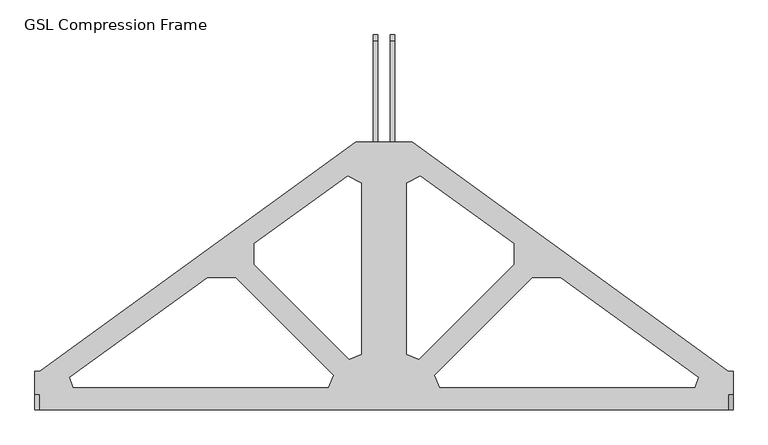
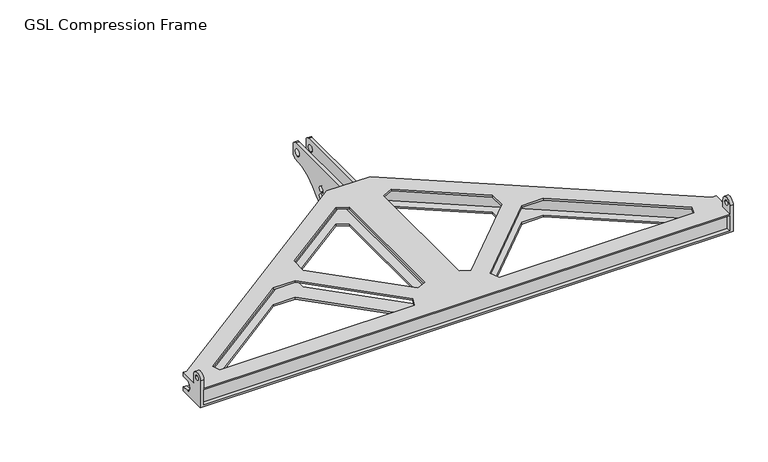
"""IFC4 building model written with IfcOpenShell, lengths in millimetres: proxy geometry, d&b SL-Series GSL Compression Frame : GSL Compression Frame."""

from ifc_helpers import new_model, si_unit, point, frame, frame_2d, origin, place, context, project, spatial, polyline, circle_curve, trimmed, segment, composite_curve, outline, extrude, source, transform, mapped, element, save
from ifc_brep_helpers import plane_surface, cylinder_surface, revolved_surface, advanced_brep


def gsl_compression_frame_d4c21625(model_context):
    return source(origin(), model_context, "Body", "SolidModel", [
        advanced_brep(
        [(-607.6771356, 98.9954278, -13.0), (-50.2424578, 503.9954278, -13.0), (50.2424578, 503.9954278, -13.0), (607.6771356, 98.9954278, -13.0), (608.3, 98.9954278, -13.0), (608.3, 30.5954278, -13.0), (-608.3, 30.5954278, -13.0), (-608.3, 98.9954278, -13.0), (261.8640023, 264.1751589, -13.0), (89.4974747, 91.8086313, -13.0), (98.2842712, 70.5954278, -13.0), (548.7143175, 70.5954278, -13.0), (554.4438076, 88.2289854, -13.0), (312.2746754, 264.1751589, -13.0), (61.2132034, 120.0929025, -13.0), (229.0999426, 287.9796417, -13.0), (229.0999426, 324.6051396, -13.0), (64.2705098, 444.3607324, -13.0), (40.0, 431.9942899, -13.0), (40.0, 128.8796991, -13.0), (-261.8640023, 264.1751589, -13.0), (-312.2746754, 264.1751589, -13.0), (-554.4438076, 88.2289854, -13.0), (-548.7143175, 70.5954278, -13.0), (-98.2842712, 70.5954278, -13.0), (-89.4974747, 91.8086313, -13.0), (-61.2132034, 120.0929025, -13.0), (-40.0, 128.8796991, -13.0), (-40.0, 431.9942899, -13.0), (-64.2705098, 444.3607324, -13.0), (-229.0999426, 324.6051396, -13.0), (-229.0999426, 287.9796417, -13.0), (607.6771356, 98.9954278, -9.0), (50.2424578, 503.9954278, -9.0), (-50.2424578, 503.9954278, -9.0), (-607.6771356, 98.9954278, -9.0), (-616.3, 98.9954278, -9.0), (-616.3, 57.3954278, -9.0), (-608.3, 57.3954278, -9.0), (-608.3, 30.5954278, -9.0), (608.3, 30.5954278, -9.0), (608.3, 57.3954278, -9.0), (616.3, 57.3954278, -9.0), (616.3, 98.9954278, -9.0), (261.8640023, 264.1751589, -9.0), (312.2746754, 264.1751589, -9.0), (554.4438076, 88.2289854, -9.0), (548.7143175, 70.5954278, -9.0), (98.2842712, 70.5954278, -9.0), (89.4974747, 91.8086313, -9.0), (61.2132034, 120.0929025, -9.0), (40.0, 128.8796991, -9.0), (40.0, 431.9942899, -9.0), (64.2705098, 444.3607324, -9.0), (229.0999426, 324.6051396, -9.0), (229.0999426, 287.9796417, -9.0), (-261.8640023, 264.1751589, -9.0), (-89.4974747, 91.8086313, -9.0), (-98.2842712, 70.5954278, -9.0), (-548.7143175, 70.5954278, -9.0), (-554.4438076, 88.2289854, -9.0), (-312.2746754, 264.1751589, -9.0), (-61.2132034, 120.0929025, -9.0), (-229.0999426, 287.9796417, -9.0), (-229.0999426, 324.6051396, -9.0), (-64.2705098, 444.3607324, -9.0), (-40.0, 431.9942899, -9.0), (-40.0, 128.8796991, -9.0), (-608.3, 98.9954278, -19.0), (-616.3, 98.9954278, -19.0), (-616.3, 83.9954278, -19.0), (-616.3, 83.9954278, -44.0), (-616.3, 98.9954278, -44.0), (-616.3, 98.9954278, -54.0), (-616.3, 30.5954278, -54.0), (-616.3, 30.5954278, 11.0), (-616.3, 57.3954278, 11.0), (-616.3, 49.3550955, 11.0), (-616.3, 38.6357602, 11.0), (-608.3, 30.5954278, 11.0), (616.3, 30.5954278, -54.0), (616.3, 30.5954278, 11.0), (608.3, 30.5954278, 11.0), (608.3, 30.5954278, -50.0), (-608.3, 30.5954278, -50.0), (616.3, 83.9954278, -19.0), (616.3, 98.9954278, -19.0), (616.3, 57.3954278, 11.0), (616.3, 98.9954278, -54.0), (616.3, 98.9954278, -44.0), (616.3, 83.9954278, -44.0), (616.3, 49.3550955, 11.0), (616.3, 38.6357602, 11.0), (608.3, 98.9954278, -19.0), (-608.3, 83.9954278, -19.0), (-608.3, 98.9954278, -50.0), (-608.3, 98.9954278, -44.0), (-608.3, 83.9954278, -44.0), (-608.3, 57.3954278, 11.0), (-608.3, 49.3550955, 11.0), (-608.3, 38.6357602, 11.0), (-607.6771356, 98.9954278, -54.0), (-50.2424578, 503.9954278, -54.0), (50.2424578, 503.9954278, -54.0), (607.6771356, 98.9954278, -54.0), (261.8640023, 264.1751589, -54.0), (89.4974747, 91.8086313, -54.0), (98.2842712, 70.5954278, -54.0), (548.7143175, 70.5954278, -54.0), (554.4438076, 88.2289854, -54.0), (312.2746754, 264.1751589, -54.0), (61.2132034, 120.0929025, -54.0), (229.0999426, 287.9796417, -54.0), (229.0999426, 324.6051396, -54.0), (64.2705098, 444.3607324, -54.0), (40.0, 431.9942899, -54.0), (40.0, 128.8796991, -54.0), (-261.8640023, 264.1751589, -54.0), (-312.2746754, 264.1751589, -54.0), (-554.4438076, 88.2289854, -54.0), (-548.7143175, 70.5954278, -54.0), (-98.2842712, 70.5954278, -54.0), (-89.4974747, 91.8086313, -54.0), (-61.2132034, 120.0929025, -54.0), (-40.0, 128.8796991, -54.0), (-40.0, 431.9942899, -54.0), (-64.2705098, 444.3607324, -54.0), (-229.0999426, 324.6051396, -54.0), (-229.0999426, 287.9796417, -54.0), (-607.6771356, 98.9954278, -50.0), (608.3, 83.9954278, -19.0), (608.3, 83.9954278, -44.0), (608.3, 98.9954278, -44.0), (608.3, 98.9954278, -50.0), (608.3, 57.3954278, 11.0), (608.3, 49.3550955, 11.0), (608.3, 38.6357602, 11.0), (607.6771356, 98.9954278, -50.0), (50.2424578, 503.9954278, -50.0), (-50.2424578, 503.9954278, -50.0), (261.8640023, 264.1751589, -50.0), (312.2746754, 264.1751589, -50.0), (554.4438076, 88.2289854, -50.0), (548.7143175, 70.5954278, -50.0), (98.2842712, 70.5954278, -50.0), (89.4974747, 91.8086313, -50.0), (61.2132034, 120.0929025, -50.0), (40.0, 128.8796991, -50.0), (40.0, 431.9942899, -50.0), (64.2705098, 444.3607324, -50.0), (229.0999426, 324.6051396, -50.0), (229.0999426, 287.9796417, -50.0), (-261.8640023, 264.1751589, -50.0), (-89.4974747, 91.8086313, -50.0), (-98.2842712, 70.5954278, -50.0), (-548.7143175, 70.5954278, -50.0), (-554.4438076, 88.2289854, -50.0), (-312.2746754, 264.1751589, -50.0), (-61.2132034, 120.0929025, -50.0), (-229.0999426, 287.9796417, -50.0), (-229.0999426, 324.6051396, -50.0), (-64.2705098, 444.3607324, -50.0), (-40.0, 431.9942899, -50.0), (-40.0, 128.8796991, -50.0)],
        [
            (0, 1),
            (1, 2),
            (2, 3),
            (3, 4),
            (4, 5),
            (5, 6),
            (6, 7),
            (7, 0),
            (8, 9),
            (9, 10),
            (10, 11),
            (11, 12),
            (12, 13),
            (13, 8),
            (14, 15),
            (15, 16),
            (16, 17),
            (17, 18),
            (18, 19),
            (19, 14),
            (20, 21),
            (21, 22),
            (22, 23),
            (23, 24),
            (24, 25),
            (25, 20),
            (26, 27),
            (27, 28),
            (28, 29),
            (29, 30),
            (30, 31),
            (31, 26),
            (32, 33),
            (33, 34),
            (34, 35),
            (35, 36),
            (36, 37),
            (37, 38),
            (38, 39),
            (39, 40),
            (40, 41),
            (41, 42),
            (42, 43),
            (43, 32),
            (44, 45),
            (45, 46),
            (46, 47),
            (47, 48),
            (48, 49),
            (49, 44),
            (50, 51),
            (51, 52),
            (52, 53),
            (53, 54),
            (54, 55),
            (55, 50),
            (56, 57),
            (57, 58),
            (58, 59),
            (59, 60),
            (60, 61),
            (61, 56),
            (62, 63),
            (63, 64),
            (64, 65),
            (65, 66),
            (66, 67),
            (67, 62),
            (2, 33),
            (32, 3),
            (1, 34),
            (0, 35),
            (7, 68),
            (68, 69),
            (69, 36),
            (70, 71, circle_curve(frame((-616.3, 83.9954278, -31.5), z_axis=(1.0, 0.0, 0.0), x_axis=(0.0, -1.0, 0.0)), 12.5)),
            (71, 72),
            (72, 73),
            (73, 74),
            (74, 75),
            (75, 76, circle_curve(frame((-616.3, 43.9954278, 11.0), z_axis=(-1.0, 0.0, 0.0), x_axis=(0.0, -1.0, 0.0)), 13.4)),
            (76, 37),
            (69, 70),
            (77, 78, circle_curve(frame((-616.3, 43.9954278, 11.0), z_axis=(1.0, 0.0, 0.0), x_axis=(0.0, -1.0, 0.0)), 5.3596677)),
            (78, 77, circle_curve(frame((-616.3, 43.9954278, 11.0), z_axis=(1.0, 0.0, 0.0), x_axis=(0.0, -1.0, 0.0)), 5.3596677)),
            (39, 79),
            (79, 75),
            (74, 80),
            (80, 81),
            (81, 82),
            (82, 40),
            (5, 83),
            (83, 84),
            (84, 6),
            (85, 86),
            (86, 43),
            (42, 87),
            (87, 81, circle_curve(frame((616.3, 43.9954278, 11.0), z_axis=(1.0, 0.0, 0.0), x_axis=(0.0, -1.0, 0.0)), 13.4)),
            (80, 88),
            (88, 89),
            (89, 90),
            (90, 85, circle_curve(frame((616.3, 83.9954278, -31.5), z_axis=(-1.0, 0.0, 0.0), x_axis=(0.0, -1.0, 0.0)), 12.5)),
            (91, 92, circle_curve(frame((616.3, 43.9954278, 11.0), z_axis=(-1.0, 0.0, 0.0), x_axis=(0.0, -1.0, 0.0)), 5.3596677)),
            (92, 91, circle_curve(frame((616.3, 43.9954278, 11.0), z_axis=(-1.0, 0.0, 0.0), x_axis=(0.0, -1.0, 0.0)), 5.3596677)),
            (86, 93),
            (93, 4),
            (13, 45),
            (44, 8),
            (12, 46),
            (11, 47),
            (10, 48),
            (9, 49),
            (19, 51),
            (50, 14),
            (18, 52),
            (17, 53),
            (16, 54),
            (15, 55),
            (25, 57),
            (56, 20),
            (24, 58),
            (23, 59),
            (22, 60),
            (21, 61),
            (31, 63),
            (62, 26),
            (30, 64),
            (29, 65),
            (28, 66),
            (27, 67),
            (94, 68),
            (84, 95),
            (95, 96),
            (96, 97),
            (97, 94, circle_curve(frame((-608.3, 83.9954278, -31.5), z_axis=(-1.0, 0.0, 0.0), x_axis=(0.0, -1.0, 0.0)), 12.5)),
            (98, 79, circle_curve(frame((-608.3, 43.9954278, 11.0), z_axis=(1.0, 0.0, 0.0), x_axis=(0.0, -1.0, 0.0)), 13.4)),
            (38, 98),
            (99, 100, circle_curve(frame((-608.3, 43.9954278, 11.0), z_axis=(-1.0, 0.0, 0.0), x_axis=(0.0, -1.0, 0.0)), 5.3596677)),
            (100, 99, circle_curve(frame((-608.3, 43.9954278, 11.0), z_axis=(-1.0, 0.0, 0.0), x_axis=(0.0, -1.0, 0.0)), 5.3596677)),
            (73, 101),
            (101, 102),
            (102, 103),
            (103, 104),
            (104, 88),
            (105, 106),
            (106, 107),
            (107, 108),
            (108, 109),
            (109, 110),
            (110, 105),
            (111, 112),
            (112, 113),
            (113, 114),
            (114, 115),
            (115, 116),
            (116, 111),
            (117, 118),
            (118, 119),
            (119, 120),
            (120, 121),
            (121, 122),
            (122, 117),
            (123, 124),
            (124, 125),
            (125, 126),
            (126, 127),
            (127, 128),
            (128, 123),
            (72, 96),
            (95, 129),
            (129, 101),
            (71, 97),
            (70, 94),
            (98, 76),
            (99, 77),
            (78, 100),
            (130, 131, circle_curve(frame((608.3, 83.9954278, -31.5), z_axis=(1.0, 0.0, 0.0), x_axis=(0.0, -1.0, 0.0)), 12.5)),
            (131, 132),
            (132, 133),
            (133, 83),
            (93, 130),
            (134, 41),
            (82, 134, circle_curve(frame((608.3, 43.9954278, 11.0), z_axis=(-1.0, 0.0, 0.0), x_axis=(0.0, -1.0, 0.0)), 13.4)),
            (135, 136, circle_curve(frame((608.3, 43.9954278, 11.0), z_axis=(1.0, 0.0, 0.0), x_axis=(0.0, -1.0, 0.0)), 5.3596677)),
            (136, 135, circle_curve(frame((608.3, 43.9954278, 11.0), z_axis=(1.0, 0.0, 0.0), x_axis=(0.0, -1.0, 0.0)), 5.3596677)),
            (104, 137),
            (137, 133),
            (132, 89),
            (131, 90),
            (130, 85),
            (87, 134),
            (136, 92),
            (91, 135),
            (137, 138),
            (138, 139),
            (139, 129),
            (140, 141),
            (141, 142),
            (142, 143),
            (143, 144),
            (144, 145),
            (145, 140),
            (146, 147),
            (147, 148),
            (148, 149),
            (149, 150),
            (150, 151),
            (151, 146),
            (152, 153),
            (153, 154),
            (154, 155),
            (155, 156),
            (156, 157),
            (157, 152),
            (158, 159),
            (159, 160),
            (160, 161),
            (161, 162),
            (162, 163),
            (163, 158),
            (103, 138),
            (102, 139),
            (110, 141),
            (140, 105),
            (109, 142),
            (108, 143),
            (107, 144),
            (106, 145),
            (116, 147),
            (146, 111),
            (115, 148),
            (114, 149),
            (113, 150),
            (112, 151),
            (122, 153),
            (152, 117),
            (121, 154),
            (120, 155),
            (119, 156),
            (118, 157),
            (128, 159),
            (158, 123),
            (127, 160),
            (126, 161),
            (125, 162),
            (124, 163),
        ],
        [
            plane_surface(frame((50.2424578, 503.9954278, -13.0), z_axis=(0.0, 0.0, -1.0), x_axis=(0.8090169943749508, -0.5877852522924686, 0.0))),
            plane_surface(frame((50.2424578, 503.9954278, -9.0), z_axis=(0.0, 0.0, 1.0), x_axis=(-0.8090169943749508, 0.5877852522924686, 0.0))),
            plane_surface(frame((607.6771356, 98.9954278, -9.0), z_axis=(0.5877852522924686, 0.8090169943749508, 0.0), x_axis=(0.0, 0.0, -1.0))),
            plane_surface(frame((50.2424578, 503.9954278, -9.0), z_axis=(0.0, 1.0, 0.0), x_axis=(0.0, 0.0, -1.0))),
            plane_surface(frame((-50.2424578, 503.9954278, -9.0), z_axis=(-0.5877852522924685, 0.8090169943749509, 0.0), x_axis=(0.0, 0.0, -1.0))),
            plane_surface(frame((-607.6771356, 98.9954278, -9.0), z_axis=(0.0, 1.0, 0.0), x_axis=(0.0, 0.0, -1.0))),
            plane_surface(frame((-616.3, 98.9954278, -9.0), z_axis=(-1.0, 0.0, 0.0), x_axis=(0.0, 0.0, -1.0))),
            plane_surface(frame((-616.3, 30.5954278, -9.0), z_axis=(0.0, -1.0, 0.0), x_axis=(0.0, 0.0, -1.0))),
            plane_surface(frame((616.3, 30.5954278, -9.0), z_axis=(1.0, 0.0, 0.0), x_axis=(0.0, 0.0, -1.0))),
            plane_surface(frame((616.3, 98.9954278, -9.0), z_axis=(0.0, 1.0, 0.0), x_axis=(0.0, 0.0, -1.0))),
            plane_surface(frame((261.8640023, 264.1751589, -9.0), z_axis=(0.0, -1.0, 0.0), x_axis=(0.0, 0.0, -1.0))),
            plane_surface(frame((312.2746754, 264.1751589, -9.0), z_axis=(-0.5877852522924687, -0.8090169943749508, 0.0), x_axis=(0.0, 0.0, -1.0))),
            plane_surface(frame((554.4438076, 88.2289854, -9.0), z_axis=(-0.9510565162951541, 0.30901699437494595, 0.0), x_axis=(0.0, 0.0, -1.0))),
            plane_surface(frame((548.7143175, 70.5954278, -9.0), z_axis=(0.0, 1.0, 0.0), x_axis=(0.0, 0.0, -1.0))),
            plane_surface(frame((98.2842712, 70.5954278, -9.0), z_axis=(0.923879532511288, 0.382683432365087, 0.0), x_axis=(0.0, 0.0, -1.0))),
            plane_surface(frame((89.4974747, 91.8086313, -9.0), z_axis=(0.7071067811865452, -0.7071067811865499, 0.0), x_axis=(0.0, 0.0, -1.0))),
            plane_surface(frame((61.2132034, 120.0929025, -9.0), z_axis=(0.3826834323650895, 0.923879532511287, 0.0), x_axis=(0.0, 0.0, -1.0))),
            plane_surface(frame((40.0, 128.8796991, -9.0), z_axis=(1.0, 0.0, 0.0), x_axis=(0.0, 0.0, -1.0))),
            plane_surface(frame((40.0, 431.9942899, -9.0), z_axis=(0.4539904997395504, -0.8910065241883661, 0.0), x_axis=(0.0, 0.0, -1.0))),
            plane_surface(frame((64.2705098, 444.3607324, -9.0), z_axis=(-0.587785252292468, -0.8090169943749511, 0.0), x_axis=(0.0, 0.0, -1.0))),
            plane_surface(frame((229.0999426, 324.6051396, -9.0), z_axis=(-1.0, 0.0, 0.0), x_axis=(0.0, 0.0, -1.0))),
            plane_surface(frame((229.0999426, 287.9796417, -9.0), z_axis=(-0.7071067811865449, 0.7071067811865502, 0.0), x_axis=(0.0, 0.0, -1.0))),
            plane_surface(frame((-261.8640023, 264.1751589, -9.0), z_axis=(-0.7071067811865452, -0.7071067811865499, 0.0), x_axis=(0.0, 0.0, -1.0))),
            plane_surface(frame((-89.4974747, 91.8086313, -9.0), z_axis=(-0.923879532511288, 0.382683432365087, 0.0), x_axis=(0.0, 0.0, -1.0))),
            plane_surface(frame((-98.2842712, 70.5954278, -9.0), z_axis=(0.0, 1.0, 0.0), x_axis=(0.0, 0.0, -1.0))),
            plane_surface(frame((-548.7143175, 70.5954278, -9.0), z_axis=(0.9510565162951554, 0.3090169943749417, 0.0), x_axis=(0.0, 0.0, -1.0))),
            plane_surface(frame((-554.4438076, 88.2289854, -9.0), z_axis=(0.5877852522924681, -0.8090169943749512, 0.0), x_axis=(0.0, 0.0, -1.0))),
            plane_surface(frame((-312.2746754, 264.1751589, -9.0), z_axis=(0.0, -1.0, 0.0), x_axis=(0.0, 0.0, -1.0))),
            plane_surface(frame((-61.2132034, 120.0929025, -9.0), z_axis=(0.7071067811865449, 0.7071067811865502, 0.0), x_axis=(0.0, 0.0, -1.0))),
            plane_surface(frame((-229.0999426, 287.9796417, -9.0), z_axis=(1.0, 0.0, 0.0), x_axis=(0.0, 0.0, -1.0))),
            plane_surface(frame((-229.0999426, 324.6051396, -9.0), z_axis=(0.587785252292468, -0.8090169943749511, 0.0), x_axis=(0.0, 0.0, -1.0))),
            plane_surface(frame((-64.2705098, 444.3607324, -9.0), z_axis=(-0.4539904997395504, -0.8910065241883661, 0.0), x_axis=(0.0, 0.0, -1.0))),
            plane_surface(frame((-40.0, 431.9942899, -9.0), z_axis=(-1.0, 0.0, 0.0), x_axis=(0.0, 0.0, -1.0))),
            plane_surface(frame((-40.0, 128.8796991, -9.0), z_axis=(-0.3826834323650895, 0.923879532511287, 0.0), x_axis=(0.0, 0.0, -1.0))),
            plane_surface(frame((-608.3, 96.9954278, -19.0), z_axis=(1.0, 0.0, 0.0), x_axis=(0.0, 1.0, 0.0))),
            plane_surface(frame((-608.3, 32.6068307, -54.0), z_axis=(0.0, 0.0, -1.0), x_axis=(-1.0, 0.0, 0.0))),
            plane_surface(frame((-608.3, 98.9954278, -54.0), z_axis=(0.0, 1.0, 0.0), x_axis=(-1.0, 0.0, 0.0))),
            plane_surface(frame((-608.3, 98.9954278, -44.0), z_axis=(0.0, 0.0, 1.0), x_axis=(-1.0, 0.0, 0.0))),
            revolved_surface(polyline([(-616.3, 71.4954278, -31.5), (-608.3, 71.4954278, -31.5)]), (-616.3, 83.9954278, -31.5), (-1.0, 0.0, 0.0)),
            plane_surface(frame((-608.3, 83.9954278, -19.0), z_axis=(0.0, 0.0, -1.0), x_axis=(-1.0, 0.0, 0.0))),
            cylinder_surface(frame((-606.25, 43.9954278, 11.0), z_axis=(1.0, 0.0, 0.0), x_axis=(0.0, -1.0, 0.0)), 13.4),
            plane_surface(frame((-608.3, 57.3954278, -9.0), z_axis=(0.0, 1.0, 0.0), x_axis=(-1.0, 0.0, 0.0))),
            revolved_surface(polyline([(-616.3, 38.6357601, 11.0), (-608.3, 38.6357601, 11.0)]), (-606.25, 43.9954278, 11.0), (-1.0, 0.0, 0.0)),
            plane_surface(frame((608.3, 71.4954278, -31.5), z_axis=(-1.0, 0.0, 0.0), x_axis=(0.0, 0.0, -1.0))),
            plane_surface(frame((608.3, 98.9954278, -44.0), z_axis=(0.0, 1.0, 0.0), x_axis=(1.0, 0.0, 0.0))),
            plane_surface(frame((608.3, 83.9954278, -44.0), z_axis=(0.0, 0.0, 1.0), x_axis=(1.0, 0.0, 0.0))),
            revolved_surface(polyline([(616.3, 71.4954278, -31.5), (608.3, 71.4954278, -31.5)]), (616.3, 83.9954278, -31.5), (1.0, 0.0, 0.0)),
            plane_surface(frame((608.3, 98.9954278, -19.0), z_axis=(0.0, 0.0, -1.0), x_axis=(1.0, 0.0, 0.0))),
            cylinder_surface(frame((606.25, 43.9954278, 11.0), z_axis=(-1.0, 0.0, 0.0), x_axis=(0.0, -1.0, 0.0)), 13.4),
            plane_surface(frame((608.3, 57.3954278, 11.0), z_axis=(0.0, 1.0, 0.0), x_axis=(1.0, 0.0, 0.0))),
            revolved_surface(polyline([(616.3, 38.6357601, 11.0), (608.3, 38.6357601, 11.0)]), (606.25, 43.9954278, 11.0), (1.0, 0.0, 0.0)),
            plane_surface(frame((50.2424578, 503.9954278, -50.0), z_axis=(0.0, 0.0, 1.0), x_axis=(-0.8090169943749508, 0.5877852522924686, 0.0))),
            plane_surface(frame((607.6771356, 98.9954278, -50.0), z_axis=(0.5877852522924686, 0.8090169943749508, 0.0), x_axis=(0.0, 0.0, -1.0))),
            plane_surface(frame((50.2424578, 503.9954278, -50.0), z_axis=(0.0, 1.0, 0.0), x_axis=(0.0, 0.0, -1.0))),
            plane_surface(frame((-50.2424578, 503.9954278, -50.0), z_axis=(-0.5877852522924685, 0.8090169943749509, 0.0), x_axis=(0.0, 0.0, -1.0))),
            plane_surface(frame((261.8640023, 264.1751589, -50.0), z_axis=(0.0, -1.0, 0.0), x_axis=(0.0, 0.0, -1.0))),
            plane_surface(frame((312.2746754, 264.1751589, -50.0), z_axis=(-0.5877852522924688, -0.8090169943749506, 0.0), x_axis=(0.0, 0.0, -1.0))),
            plane_surface(frame((554.4438076, 88.2289854, -50.0), z_axis=(-0.9510565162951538, 0.30901699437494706, 0.0), x_axis=(0.0, 0.0, -1.0))),
            plane_surface(frame((548.7143175, 70.5954278, -50.0), z_axis=(0.0, 1.0, 0.0), x_axis=(0.0, 0.0, -1.0))),
            plane_surface(frame((98.2842712, 70.5954278, -50.0), z_axis=(0.923879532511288, 0.382683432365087, 0.0), x_axis=(0.0, 0.0, -1.0))),
            plane_surface(frame((89.4974747, 91.8086313, -50.0), z_axis=(0.7071067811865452, -0.7071067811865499, 0.0), x_axis=(0.0, 0.0, -1.0))),
            plane_surface(frame((61.2132034, 120.0929025, -50.0), z_axis=(0.3826834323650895, 0.923879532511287, 0.0), x_axis=(0.0, 0.0, -1.0))),
            plane_surface(frame((40.0, 128.8796991, -50.0), z_axis=(1.0, 0.0, 0.0), x_axis=(0.0, 0.0, -1.0))),
            plane_surface(frame((40.0, 431.9942899, -50.0), z_axis=(0.4539904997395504, -0.8910065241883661, 0.0), x_axis=(0.0, 0.0, -1.0))),
            plane_surface(frame((64.2705098, 444.3607324, -50.0), z_axis=(-0.587785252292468, -0.8090169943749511, 0.0), x_axis=(0.0, 0.0, -1.0))),
            plane_surface(frame((229.0999426, 324.6051396, -50.0), z_axis=(-1.0, 0.0, 0.0), x_axis=(0.0, 0.0, -1.0))),
            plane_surface(frame((229.0999426, 287.9796417, -50.0), z_axis=(-0.7071067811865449, 0.7071067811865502, 0.0), x_axis=(0.0, 0.0, -1.0))),
            plane_surface(frame((-261.8640023, 264.1751589, -50.0), z_axis=(-0.7071067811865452, -0.7071067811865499, 0.0), x_axis=(0.0, 0.0, -1.0))),
            plane_surface(frame((-89.4974747, 91.8086313, -50.0), z_axis=(-0.923879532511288, 0.382683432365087, 0.0), x_axis=(0.0, 0.0, -1.0))),
            plane_surface(frame((-98.2842712, 70.5954278, -50.0), z_axis=(0.0, 1.0, 0.0), x_axis=(0.0, 0.0, -1.0))),
            plane_surface(frame((-548.7143175, 70.5954278, -50.0), z_axis=(0.9510565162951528, 0.3090169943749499, 0.0), x_axis=(0.0, 0.0, -1.0))),
            plane_surface(frame((-554.4438076, 88.2289854, -50.0), z_axis=(0.587785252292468, -0.8090169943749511, 0.0), x_axis=(0.0, 0.0, -1.0))),
            plane_surface(frame((-312.2746754, 264.1751589, -50.0), z_axis=(0.0, -1.0, 0.0), x_axis=(0.0, 0.0, -1.0))),
            plane_surface(frame((-61.2132034, 120.0929025, -50.0), z_axis=(0.7071067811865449, 0.7071067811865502, 0.0), x_axis=(0.0, 0.0, -1.0))),
            plane_surface(frame((-229.0999426, 287.9796417, -50.0), z_axis=(1.0, 0.0, 0.0), x_axis=(0.0, 0.0, -1.0))),
            plane_surface(frame((-229.0999426, 324.6051396, -50.0), z_axis=(0.587785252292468, -0.8090169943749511, 0.0), x_axis=(0.0, 0.0, -1.0))),
            plane_surface(frame((-64.2705098, 444.3607324, -50.0), z_axis=(-0.4539904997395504, -0.8910065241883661, 0.0), x_axis=(0.0, 0.0, -1.0))),
            plane_surface(frame((-40.0, 431.9942899, -50.0), z_axis=(-1.0, 0.0, 0.0), x_axis=(0.0, 0.0, -1.0))),
            plane_surface(frame((-40.0, 128.8796991, -50.0), z_axis=(-0.3826834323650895, 0.923879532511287, 0.0), x_axis=(0.0, 0.0, -1.0))),
        ],
        [
            (0, [[1, 2, 3, 4, 5, 6, 7, 8], [9, 10, 11, 12, 13, 14], [15, 16, 17, 18, 19, 20], [21, 22, 23, 24, 25, 26], [27, 28, 29, 30, 31, 32]]),
            (1, [[33, 34, 35, 36, 37, 38, 39, 40, 41, 42, 43, 44], [45, 46, 47, 48, 49, 50], [51, 52, 53, 54, 55, 56], [57, 58, 59, 60, 61, 62], [63, 64, 65, 66, 67, 68]]),
            (2, [[-3, 69, -33, 70]]),
            (3, [[-2, 71, -34, -69]]),
            (4, [[-1, 72, -35, -71]]),
            (5, [[-36, -72, -8, 73, 74, 75]]),
            (6, [[76, 77, 78, 79, 80, 81, 82, -37, -75, 83], [84, 85]]),
            (7, [[86, 87, -80, 88, 89, 90, 91, -40], [92, 93, 94, -6]]),
            (8, [[95, 96, -43, 97, 98, -89, 99, 100, 101, 102], [103, 104]]),
            (9, [[-44, -96, 105, 106, -4, -70]]),
            (10, [[-14, 107, -45, 108]]),
            (11, [[-13, 109, -46, -107]]),
            (12, [[-12, 110, -47, -109]]),
            (13, [[-11, 111, -48, -110]]),
            (14, [[-10, 112, -49, -111]]),
            (15, [[-9, -108, -50, -112]]),
            (16, [[-20, 113, -51, 114]]),
            (17, [[-19, 115, -52, -113]]),
            (18, [[-18, 116, -53, -115]]),
            (19, [[-17, 117, -54, -116]]),
            (20, [[-16, 118, -55, -117]]),
            (21, [[-15, -114, -56, -118]]),
            (22, [[-26, 119, -57, 120]]),
            (23, [[-25, 121, -58, -119]]),
            (24, [[-24, 122, -59, -121]]),
            (25, [[-23, 123, -60, -122]]),
            (26, [[-22, 124, -61, -123]]),
            (27, [[-21, -120, -62, -124]]),
            (28, [[-32, 125, -63, 126]]),
            (29, [[-31, 127, -64, -125]]),
            (30, [[-30, 128, -65, -127]]),
            (31, [[-29, 129, -66, -128]]),
            (32, [[-28, 130, -67, -129]]),
            (33, [[-27, -126, -68, -130]]),
            (34, [[131, -73, -7, -94, 132, 133, 134, 135]]),
            (34, [[136, -86, -39, 137], [138, 139]]),
            (35, [[-79, 140, 141, 142, 143, 144, -99, -88], [145, 146, 147, 148, 149, 150], [151, 152, 153, 154, 155, 156], [157, 158, 159, 160, 161, 162], [163, 164, 165, 166, 167, 168]]),
            (36, [[-140, -78, 169, -133, 170, 171]]),
            (37, [[-134, -169, -77, 172]]),
            (38, [[-135, -172, -76, 173]]),
            (39, [[-131, -173, -83, -74]]),
            (40, [[-136, 174, -81, -87]]),
            (41, [[-137, -38, -82, -174]]),
            (42, [[-138, 175, -85, 176]]),
            (42, [[-139, -176, -84, -175]]),
            (43, [[177, 178, 179, 180, -92, -5, -106, 181]]),
            (43, [[182, -41, -91, 183], [184, 185]]),
            (44, [[-100, -144, 186, 187, -179, 188]]),
            (45, [[-178, 189, -101, -188]]),
            (46, [[-177, 190, -102, -189]]),
            (47, [[-181, -105, -95, -190]]),
            (48, [[-183, -90, -98, 191]]),
            (49, [[-182, -191, -97, -42]]),
            (50, [[-185, 192, -103, 193]]),
            (50, [[-184, -193, -104, -192]]),
            (51, [[194, 195, 196, -170, -132, -93, -180, -187], [197, 198, 199, 200, 201, 202], [203, 204, 205, 206, 207, 208], [209, 210, 211, 212, 213, 214], [215, 216, 217, 218, 219, 220]]),
            (52, [[-143, 221, -194, -186]]),
            (53, [[-142, 222, -195, -221]]),
            (54, [[-141, -171, -196, -222]]),
            (55, [[-150, 223, -197, 224]]),
            (56, [[-149, 225, -198, -223]]),
            (57, [[-148, 226, -199, -225]]),
            (58, [[-147, 227, -200, -226]]),
            (59, [[-146, 228, -201, -227]]),
            (60, [[-145, -224, -202, -228]]),
            (61, [[-156, 229, -203, 230]]),
            (62, [[-155, 231, -204, -229]]),
            (63, [[-154, 232, -205, -231]]),
            (64, [[-153, 233, -206, -232]]),
            (65, [[-152, 234, -207, -233]]),
            (66, [[-151, -230, -208, -234]]),
            (67, [[-162, 235, -209, 236]]),
            (68, [[-161, 237, -210, -235]]),
            (69, [[-160, 238, -211, -237]]),
            (70, [[-159, 239, -212, -238]]),
            (71, [[-158, 240, -213, -239]]),
            (72, [[-157, -236, -214, -240]]),
            (73, [[-168, 241, -215, 242]]),
            (74, [[-167, 243, -216, -241]]),
            (75, [[-166, 244, -217, -243]]),
            (76, [[-165, 245, -218, -244]]),
            (77, [[-164, 246, -219, -245]]),
            (78, [[-163, -242, -220, -246]]),
        ],
    ),
        extrude(outline(composite_curve([segment(polyline([(504.4954278, -11.0), (683.4954278, -11.0)]), True, "CONTINUOUS"), segment(trimmed(circle_curve(frame_2d((683.4954278, -21.0)), 10.0), [point((683.4954278, -11.0))], [point((693.4954278, -21.0))], False, "CARTESIAN"), True, "CONTINUOUS"), segment(polyline([(693.4954278, -21.0), (693.4954278, -40.2030025)]), True, "CONTINUOUS"), segment(trimmed(circle_curve(frame_2d((683.4954278, -40.2030025)), 10.0), [point((693.4954278, -40.2030025))], [point((684.0436234, -50.1879653))], False, "CARTESIAN"), True, "CONTINUOUS"), segment(trimmed(circle_curve(frame_2d((690.8960677, -175.0)), 125.0), [point((684.0436234, -50.1879653))], [point((595.7650765, -93.9130435))], True, "CARTESIAN"), True, "CONTINUOUS"), segment(trimmed(circle_curve(frame_2d((581.4954278, -81.75)), 18.75), [point((595.7650765, -93.9130435))], [point((564.28645, -89.1940299))], False, "CARTESIAN"), True, "CONTINUOUS"), segment(trimmed(circle_curve(frame_2d((504.62866, -115.0)), 65.0), [point((564.28645, -89.1940299))], [point((504.62866, -50.0))], True, "CARTESIAN"), True, "CONTINUOUS"), segment(polyline([(504.62866, -50.0), (43.8454278, -50.0), (43.8454278, -13.0), (504.4954278, -13.0), (504.4954278, -11.0)]), True, "CONTINUOUS")], self_intersect=False), holes=[composite_curve([segment(trimmed(circle_curve(frame_2d((675.9954278, -31.0)), 8.25), [point((675.9954278, -22.75))], [point((675.9954278, -39.25))], True, "CARTESIAN"), True, "CONTINUOUS"), segment(trimmed(circle_curve(frame_2d((675.9954278, -31.0)), 8.25), [point((675.9954278, -39.25))], [point((675.9954278, -22.75))], True, "CARTESIAN"), True, "CONTINUOUS")], self_intersect=False), composite_curve([segment(trimmed(circle_curve(frame_2d((581.4954278, -63.0)), 6.25), [point((581.4954278, -56.75))], [point((581.4954278, -69.25))], True, "CARTESIAN"), True, "CONTINUOUS"), segment(trimmed(circle_curve(frame_2d((581.4954278, -63.0)), 6.25), [point((581.4954278, -69.25))], [point((581.4954278, -56.75))], True, "CARTESIAN"), True, "CONTINUOUS")], self_intersect=False), composite_curve([segment(trimmed(circle_curve(frame_2d((581.4954278, -81.75)), 6.25), [point((581.4954278, -75.5))], [point((581.4954278, -88.0))], True, "CARTESIAN"), True, "CONTINUOUS"), segment(trimmed(circle_curve(frame_2d((581.4954278, -81.75)), 6.25), [point((581.4954278, -88.0))], [point((581.4954278, -75.5))], True, "CARTESIAN"), True, "CONTINUOUS")], self_intersect=False)]), frame((-19.0, 0.0, 0.0), z_axis=(1.0, 0.0, 0.0), x_axis=(0.0, 1.0, 0.0)), (0.0, 0.0, 1.0), 8.0),
        extrude(outline(composite_curve([segment(polyline([(504.4954278, -11.0), (683.4954278, -11.0)]), True, "CONTINUOUS"), segment(trimmed(circle_curve(frame_2d((683.4954278, -21.0)), 10.0), [point((683.4954278, -11.0))], [point((693.4954278, -21.0))], False, "CARTESIAN"), True, "CONTINUOUS"), segment(polyline([(693.4954278, -21.0), (693.4954278, -40.2030025)]), True, "CONTINUOUS"), segment(trimmed(circle_curve(frame_2d((683.4954278, -40.2030025)), 10.0), [point((693.4954278, -40.2030025))], [point((684.0436234, -50.1879653))], False, "CARTESIAN"), True, "CONTINUOUS"), segment(trimmed(circle_curve(frame_2d((690.8960677, -175.0)), 125.0), [point((684.0436234, -50.1879653))], [point((595.7650765, -93.9130435))], True, "CARTESIAN"), True, "CONTINUOUS"), segment(trimmed(circle_curve(frame_2d((581.4954278, -81.75)), 18.75), [point((595.7650765, -93.9130435))], [point((564.28645, -89.1940299))], False, "CARTESIAN"), True, "CONTINUOUS"), segment(trimmed(circle_curve(frame_2d((504.62866, -115.0)), 65.0), [point((564.28645, -89.1940299))], [point((504.62866, -50.0))], True, "CARTESIAN"), True, "CONTINUOUS"), segment(polyline([(504.62866, -50.0), (43.8454278, -50.0), (43.8454278, -13.0), (504.4954278, -13.0), (504.4954278, -11.0)]), True, "CONTINUOUS")], self_intersect=False), holes=[composite_curve([segment(trimmed(circle_curve(frame_2d((675.9954278, -31.0)), 8.25), [point((675.9954278, -22.75))], [point((675.9954278, -39.25))], True, "CARTESIAN"), True, "CONTINUOUS"), segment(trimmed(circle_curve(frame_2d((675.9954278, -31.0)), 8.25), [point((675.9954278, -39.25))], [point((675.9954278, -22.75))], True, "CARTESIAN"), True, "CONTINUOUS")], self_intersect=False), composite_curve([segment(trimmed(circle_curve(frame_2d((581.4954278, -63.0)), 6.25), [point((581.4954278, -56.75))], [point((581.4954278, -69.25))], True, "CARTESIAN"), True, "CONTINUOUS"), segment(trimmed(circle_curve(frame_2d((581.4954278, -63.0)), 6.25), [point((581.4954278, -69.25))], [point((581.4954278, -56.75))], True, "CARTESIAN"), True, "CONTINUOUS")], self_intersect=False), composite_curve([segment(trimmed(circle_curve(frame_2d((581.4954278, -81.75)), 6.25), [point((581.4954278, -75.5))], [point((581.4954278, -88.0))], True, "CARTESIAN"), True, "CONTINUOUS"), segment(trimmed(circle_curve(frame_2d((581.4954278, -81.75)), 6.25), [point((581.4954278, -88.0))], [point((581.4954278, -75.5))], True, "CARTESIAN"), True, "CONTINUOUS")], self_intersect=False)]), frame((11.0, 0.0, 0.0), z_axis=(1.0, 0.0, 0.0), x_axis=(0.0, 1.0, 0.0)), (0.0, 0.0, 1.0), 8.0),
        extrude(outline(polyline([(37.351141, 491.1122941), (605.0, 78.6912571), (602.648859, 75.4551891), (35.0, 487.8762262), (37.351141, 491.1122941)])), frame((0.0, 0.0, -50.0), z_axis=(0.0, 0.0, 1.0), x_axis=(1.0, 0.0, 0.0)), (0.0, 0.0, 1.0), 37.0),
        extrude(outline(polyline([(-605.0, 78.6912571), (-37.351141, 491.1122941), (-35.0, 487.8762262), (-602.648859, 75.4551891), (-605.0, 78.6912571)])), frame((0.0, 0.0, -50.0), z_axis=(0.0, 0.0, 1.0), x_axis=(1.0, 0.0, 0.0)), (0.0, 0.0, 1.0), 37.0),
        extrude(outline(polyline([(608.3, 43.8454278), (608.3, 39.8454278), (-608.3, 39.8454278), (-608.3, 43.8454278), (608.3, 43.8454278)])), frame((0.0, 0.0, -50.0), z_axis=(0.0, 0.0, 1.0), x_axis=(1.0, 0.0, 0.0)), (0.0, 0.0, 1.0), 37.0),
    ])


if __name__ == "__main__":
    model = new_model("IFC4")
    model_context = context("Model", 3, world=origin())
    ifc_project = project(units=[si_unit("LENGTHUNIT", "METRE", prefix="MILLI")], contexts=[model_context])
    site = spatial("IfcSite", under=ifc_project)
    building = spatial("IfcBuilding", under=site)
    placement = place(None, origin())
    gsl_compression_frame_shape = gsl_compression_frame_d4c21625(model_context)
    element("IfcBuildingElementProxy", 1, Name="d&b SL-Series GSL Compression Frame : GSL Compression Frame", ObjectType="d&b SL-Series GSL Compression Frame : GSL Compression Frame", at=placement, inside=building, context=model_context, shape_type="MappedRepresentation", body=[
        mapped(gsl_compression_frame_shape, transform((0.0, 0.0, 0.0), x_axis=(1.0, 0.0, 0.0), y_axis=(0.0, 1.0, 0.0), z_axis=(0.0, 0.0, 1.0))),
    ])
    save(model, "model.ifc")
